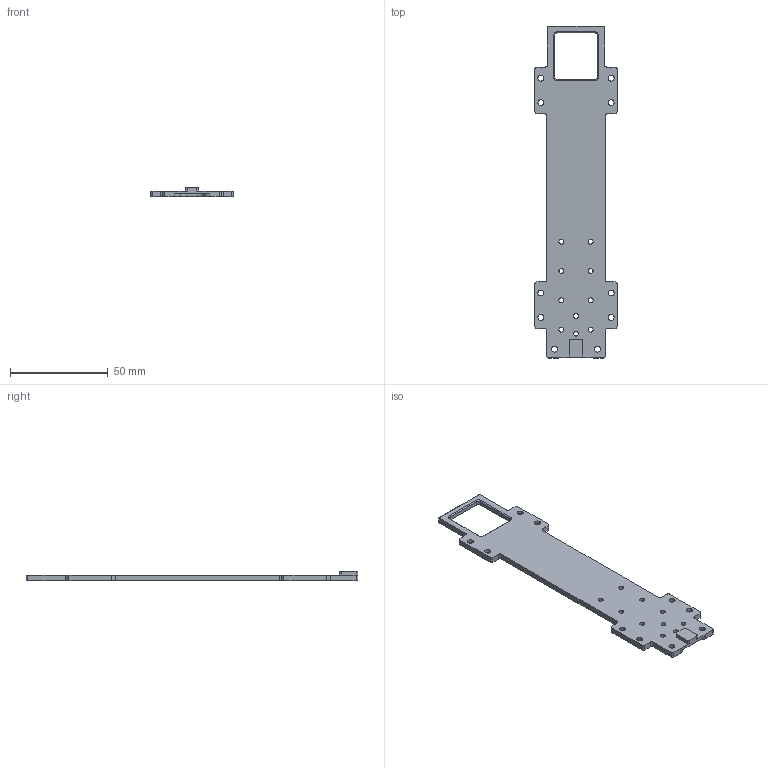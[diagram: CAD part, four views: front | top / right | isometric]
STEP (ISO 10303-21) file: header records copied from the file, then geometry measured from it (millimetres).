
FILE_DESCRIPTION(/* description */ (''),/* implementation_level */ '2;1');
FILE_NAME(/* name */ 'Main Chassis_STIFFNER 1.step',/* time_stamp */ '2026-10-23T15:29:06+05:30',/* author */ (''),/* organization */ (''),/* preprocessor_version */ 'ST-DEVELOPER v20.2',/* originating_system */ 'Autodesk Translation Framework v15.15.0.0',/* authorisation */ '');
FILE_SCHEMA (('AUTOMOTIVE_DESIGN { 1 0 10303 214 3 1 1 }'));
Length unit declared in the file: millimetre
Products named in the file (1): 2026-10-23-15-29-05-992
Bounding box: 42 x 170 x 5 mm (x, y, z)
Volume: 14872.1 mm3; surface area: 12078.2 mm2
Topology: 1 solids, 1 shells, 111 faces, 313 edges, 196 vertices
Faces by surface type: cylinder 52, plane 41, cone 18
Full cylindrical faces by diameter (mm): 2.529 x10, 3 x10
Entity records: 3708 total; most frequent: DIRECTION 665, ORIENTED_EDGE 626, CARTESIAN_POINT 621, EDGE_CURVE 313, AXIS2_PLACEMENT_3D 240, VERTEX_POINT 196, LINE 185, VECTOR 185
